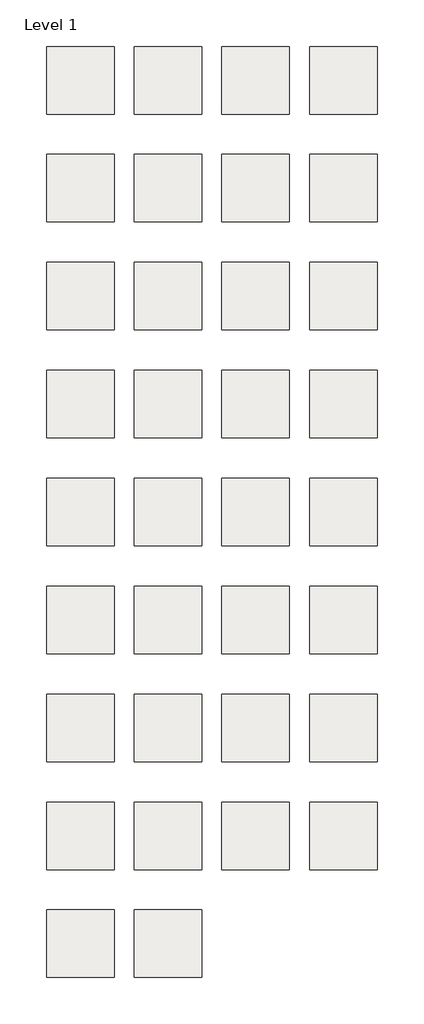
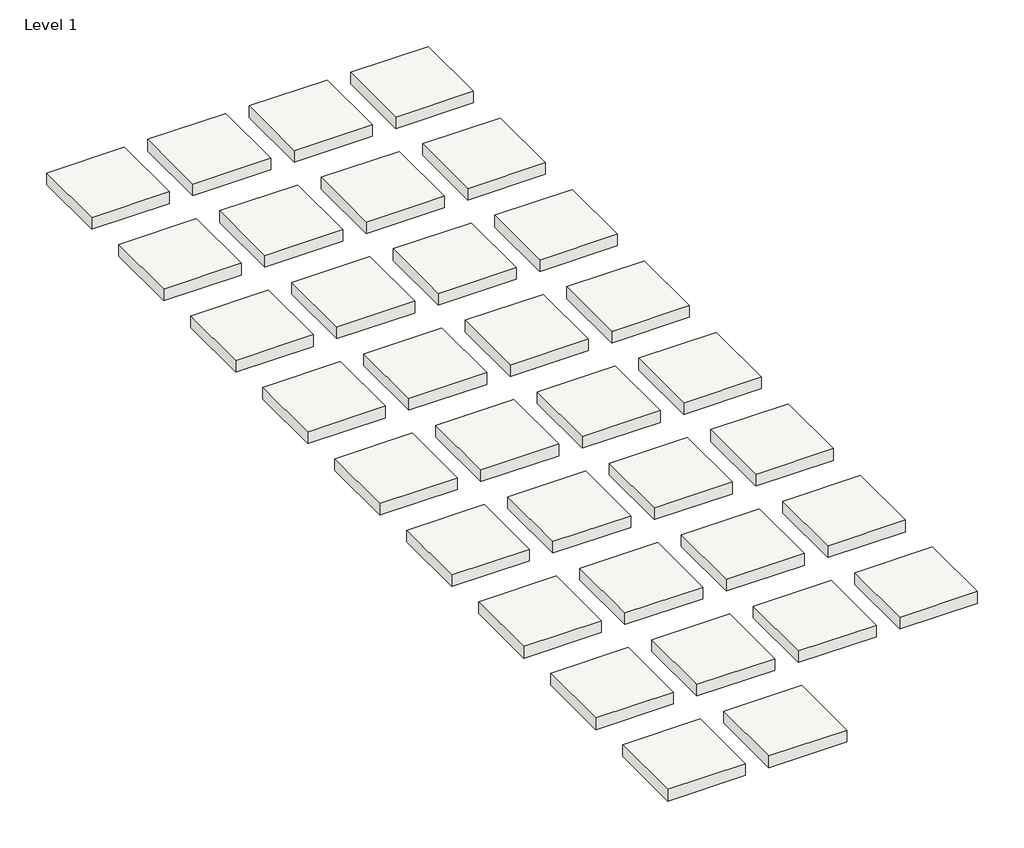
# One storey: 34 slabs.
"""IFC4 building model written with IfcOpenShell, lengths in millimetres."""

from ifc_helpers import new_model, si_unit, frame, origin, place, context, project, spatial, polyline, outline, extrude, element, save

model = new_model("IFC4")

# Units and contexts
model_context = context("Model", 3, world=origin())
ifc_project = project(units=[si_unit("LENGTHUNIT", "METRE", prefix="MILLI")], contexts=[model_context])

# Site, building, storey
site = spatial("IfcSite", under=ifc_project)
building = spatial("IfcBuilding", under=site)
storey = spatial("IfcBuildingStorey", under=building, Name="Level 1", Elevation=0.0)

# Slabs
placement = place(None, origin())
element("IfcSlab", 1, ObjectType="Armstrong_DecorArt Rejuvenations_Ambigu_38501 golden treasure", at=placement, inside=storey, context=model_context, shape_type="SweptSolid", body=[
    extrude(outline(polyline([(30743.6055838, 2884.7695431), (30743.6055838, 1360.7695431), (29219.6055838, 1360.7695431), (29219.6055838, 2884.7695431), (30743.6055838, 2884.7695431)])), frame((0.0, 0.0, -239.9109375), z_axis=(0.0, 0.0, 1.0), x_axis=(1.0, 0.0, 0.0)), (0.0, 0.0, 1.0), 239.9109375),
])
element("IfcSlab", 2, ObjectType="Armstrong_DecorArt Rejuvenations_Ambigu_38502 gingerly put", at=placement, inside=storey, context=model_context, shape_type="SweptSolid", body=[
    extrude(outline(polyline([(32724.8055838, 2884.7695431), (32724.8055838, 1360.7695431), (31200.8055838, 1360.7695431), (31200.8055838, 2884.7695431), (32724.8055838, 2884.7695431)])), frame((0.0, 0.0, -239.9109375), z_axis=(0.0, 0.0, 1.0), x_axis=(1.0, 0.0, 0.0)), (0.0, 0.0, 1.0), 239.9109375),
])
element("IfcSlab", 3, ObjectType="Armstrong_DecorArt Rejuvenations_Ambigu_38504 regal", at=placement, inside=storey, context=model_context, shape_type="SweptSolid", body=[
    extrude(outline(polyline([(36687.2055838, 2884.7695431), (36687.2055838, 1360.7695431), (35163.2055838, 1360.7695431), (35163.2055838, 2884.7695431), (36687.2055838, 2884.7695431)])), frame((0.0, 0.0, -239.9109375), z_axis=(0.0, 0.0, 1.0), x_axis=(1.0, 0.0, 0.0)), (0.0, 0.0, 1.0), 239.9109375),
])
element("IfcSlab", 4, ObjectType="Armstrong_DecorArt Rejuvenations_Ambigu_38505 empress sand", at=placement, inside=storey, context=model_context, shape_type="SweptSolid", body=[
    extrude(outline(polyline([(30743.6055838, 446.3695431), (30743.6055838, -1077.6304569), (29219.6055838, -1077.6304569), (29219.6055838, 446.3695431), (30743.6055838, 446.3695431)])), frame((0.0, 0.0, -239.9109375), z_axis=(0.0, 0.0, 1.0), x_axis=(1.0, 0.0, 0.0)), (0.0, 0.0, 1.0), 239.9109375),
])
element("IfcSlab", 5, ObjectType="Armstrong_DecorArt Rejuvenations_Ambigu_38506 royal", at=placement, inside=storey, context=model_context, shape_type="SweptSolid", body=[
    extrude(outline(polyline([(32724.8055838, 446.3695431), (32724.8055838, -1077.6304569), (31200.8055838, -1077.6304569), (31200.8055838, 446.3695431), (32724.8055838, 446.3695431)])), frame((0.0, 0.0, -239.9109375), z_axis=(0.0, 0.0, 1.0), x_axis=(1.0, 0.0, 0.0)), (0.0, 0.0, 1.0), 239.9109375),
])
element("IfcSlab", 6, ObjectType="Armstrong_DecorArt Rejuvenations_Ambigu_38508 koala", at=placement, inside=storey, context=model_context, shape_type="SweptSolid", body=[
    extrude(outline(polyline([(34706.0055838, 446.3695431), (34706.0055838, -1077.6304569), (33182.0055838, -1077.6304569), (33182.0055838, 446.3695431), (34706.0055838, 446.3695431)])), frame((0.0, 0.0, -239.9109375), z_axis=(0.0, 0.0, 1.0), x_axis=(1.0, 0.0, 0.0)), (0.0, 0.0, 1.0), 239.9109375),
])
element("IfcSlab", 7, ObjectType="Armstrong_DecorArt Rejuvenations_Ambigu_38509 melbourne", at=placement, inside=storey, context=model_context, shape_type="SweptSolid", body=[
    extrude(outline(polyline([(36687.2055838, 446.3695431), (36687.2055838, -1077.6304569), (35163.2055838, -1077.6304569), (35163.2055838, 446.3695431), (36687.2055838, 446.3695431)])), frame((0.0, 0.0, -239.9109375), z_axis=(0.0, 0.0, 1.0), x_axis=(1.0, 0.0, 0.0)), (0.0, 0.0, 1.0), 239.9109375),
])
element("IfcSlab", 8, ObjectType="Armstrong_DecorArt Rejuvenations_Ambigu_38510 g'day mate", at=placement, inside=storey, context=model_context, shape_type="SweptSolid", body=[
    extrude(outline(polyline([(30743.6055838, -1992.0304569), (30743.6055838, -3516.0304569), (29219.6055838, -3516.0304569), (29219.6055838, -1992.0304569), (30743.6055838, -1992.0304569)])), frame((0.0, 0.0, -239.9109375), z_axis=(0.0, 0.0, 1.0), x_axis=(1.0, 0.0, 0.0)), (0.0, 0.0, 1.0), 239.9109375),
])
element("IfcSlab", 9, ObjectType="Armstrong_DecorArt Rejuvenations_Ambigu_38511 kangaroo", at=placement, inside=storey, context=model_context, shape_type="SweptSolid", body=[
    extrude(outline(polyline([(32724.8055838, -1992.0304569), (32724.8055838, -3516.0304569), (31200.8055838, -3516.0304569), (31200.8055838, -1992.0304569), (32724.8055838, -1992.0304569)])), frame((0.0, 0.0, -239.9109375), z_axis=(0.0, 0.0, 1.0), x_axis=(1.0, 0.0, 0.0)), (0.0, 0.0, 1.0), 239.9109375),
])
element("IfcSlab", 10, ObjectType="Armstrong_DecorArt Rejuvenations_Ambigu_38512 sydney", at=placement, inside=storey, context=model_context, shape_type="SweptSolid", body=[
    extrude(outline(polyline([(34706.0055838, -1992.0304569), (34706.0055838, -3516.0304569), (33182.0055838, -3516.0304569), (33182.0055838, -1992.0304569), (34706.0055838, -1992.0304569)])), frame((0.0, 0.0, -239.9109375), z_axis=(0.0, 0.0, 1.0), x_axis=(1.0, 0.0, 0.0)), (0.0, 0.0, 1.0), 239.9109375),
])
element("IfcSlab", 11, ObjectType="Armstrong_DecorArt Rejuvenations_Ambigu_38513 down under", at=placement, inside=storey, context=model_context, shape_type="SweptSolid", body=[
    extrude(outline(polyline([(36687.2055838, -1992.0304569), (36687.2055838, -3516.0304569), (35163.2055838, -3516.0304569), (35163.2055838, -1992.0304569), (36687.2055838, -1992.0304569)])), frame((0.0, 0.0, -239.9109375), z_axis=(0.0, 0.0, 1.0), x_axis=(1.0, 0.0, 0.0)), (0.0, 0.0, 1.0), 239.9109375),
])
element("IfcSlab", 12, ObjectType="Armstrong_DecorArt Rejuvenations_Ambigu_38514 broadway", at=placement, inside=storey, context=model_context, shape_type="SweptSolid", body=[
    extrude(outline(polyline([(30743.6055838, -4430.4304569), (30743.6055838, -5954.4304569), (29219.6055838, -5954.4304569), (29219.6055838, -4430.4304569), (30743.6055838, -4430.4304569)])), frame((0.0, 0.0, -239.9109375), z_axis=(0.0, 0.0, 1.0), x_axis=(1.0, 0.0, 0.0)), (0.0, 0.0, 1.0), 239.9109375),
])
element("IfcSlab", 13, ObjectType="Armstrong_DecorArt Rejuvenations_Ambigu_38515 new yorker", at=placement, inside=storey, context=model_context, shape_type="SweptSolid", body=[
    extrude(outline(polyline([(32724.8055838, -4430.4304569), (32724.8055838, -5954.4304569), (31200.8055838, -5954.4304569), (31200.8055838, -4430.4304569), (32724.8055838, -4430.4304569)])), frame((0.0, 0.0, -239.9109375), z_axis=(0.0, 0.0, 1.0), x_axis=(1.0, 0.0, 0.0)), (0.0, 0.0, 1.0), 239.9109375),
])
element("IfcSlab", 14, ObjectType="Armstrong_DecorArt Rejuvenations_Ambigu_38516 tourist", at=placement, inside=storey, context=model_context, shape_type="SweptSolid", body=[
    extrude(outline(polyline([(34706.0055838, -4430.4304569), (34706.0055838, -5954.4304569), (33182.0055838, -5954.4304569), (33182.0055838, -4430.4304569), (34706.0055838, -4430.4304569)])), frame((0.0, 0.0, -239.9109375), z_axis=(0.0, 0.0, 1.0), x_axis=(1.0, 0.0, 0.0)), (0.0, 0.0, 1.0), 239.9109375),
])
element("IfcSlab", 15, ObjectType="Armstrong_DecorArt Rejuvenations_Ambigu_38503 princess gray", at=placement, inside=storey, context=model_context, shape_type="SweptSolid", body=[
    extrude(outline(polyline([(34706.0055838, 2884.7695431), (34706.0055838, 1360.7695431), (33182.0055838, 1360.7695431), (33182.0055838, 2884.7695431), (34706.0055838, 2884.7695431)])), frame((0.0, 0.0, -239.9109375), z_axis=(0.0, 0.0, 1.0), x_axis=(1.0, 0.0, 0.0)), (0.0, 0.0, 1.0), 239.9109375),
])
element("IfcSlab", 16, ObjectType="Armstrong_DecorArt Rejuvenations_Ambigu_38517 transit", at=placement, inside=storey, context=model_context, shape_type="SweptSolid", body=[
    extrude(outline(polyline([(36687.2055838, -4430.4304569), (36687.2055838, -5954.4304569), (35163.2055838, -5954.4304569), (35163.2055838, -4430.4304569), (36687.2055838, -4430.4304569)])), frame((0.0, 0.0, -239.9109375), z_axis=(0.0, 0.0, 1.0), x_axis=(1.0, 0.0, 0.0)), (0.0, 0.0, 1.0), 239.9109375),
])
element("IfcSlab", 17, ObjectType="Armstrong_DecorArt Rejuvenations_Ambigu_38518 garment district", at=placement, inside=storey, context=model_context, shape_type="SweptSolid", body=[
    extrude(outline(polyline([(30743.6055838, -6868.8304569), (30743.6055838, -8392.8304569), (29219.6055838, -8392.8304569), (29219.6055838, -6868.8304569), (30743.6055838, -6868.8304569)])), frame((0.0, 0.0, -239.9109375), z_axis=(0.0, 0.0, 1.0), x_axis=(1.0, 0.0, 0.0)), (0.0, 0.0, 1.0), 239.9109375),
])
element("IfcSlab", 18, ObjectType="Armstrong_DecorArt Rejuvenations_Ambigu_38519 never sleeps", at=placement, inside=storey, context=model_context, shape_type="SweptSolid", body=[
    extrude(outline(polyline([(32724.8055838, -6868.8304569), (32724.8055838, -8392.8304569), (31200.8055838, -8392.8304569), (31200.8055838, -6868.8304569), (32724.8055838, -6868.8304569)])), frame((0.0, 0.0, -239.9109375), z_axis=(0.0, 0.0, 1.0), x_axis=(1.0, 0.0, 0.0)), (0.0, 0.0, 1.0), 239.9109375),
])
element("IfcSlab", 19, ObjectType="Armstrong_DecorArt Rejuvenations_Ambigu_38521 traffic jam", at=placement, inside=storey, context=model_context, shape_type="SweptSolid", body=[
    extrude(outline(polyline([(36687.2055838, -6868.8304569), (36687.2055838, -8392.8304569), (35163.2055838, -8392.8304569), (35163.2055838, -6868.8304569), (36687.2055838, -6868.8304569)])), frame((0.0, 0.0, -239.9109375), z_axis=(0.0, 0.0, 1.0), x_axis=(1.0, 0.0, 0.0)), (0.0, 0.0, 1.0), 239.9109375),
])
element("IfcSlab", 20, ObjectType="Armstrong_DecorArt Rejuvenations_Ambigu_38522 hail a cab", at=placement, inside=storey, context=model_context, shape_type="SweptSolid", body=[
    extrude(outline(polyline([(30743.6055838, -9307.2304569), (30743.6055838, -10831.2304569), (29219.6055838, -10831.2304569), (29219.6055838, -9307.2304569), (30743.6055838, -9307.2304569)])), frame((0.0, 0.0, -239.9109375), z_axis=(0.0, 0.0, 1.0), x_axis=(1.0, 0.0, 0.0)), (0.0, 0.0, 1.0), 239.9109375),
])
element("IfcSlab", 21, ObjectType="Armstrong_DecorArt Rejuvenations_Ambigu_38523 times square", at=placement, inside=storey, context=model_context, shape_type="SweptSolid", body=[
    extrude(outline(polyline([(32724.8055838, -9307.2304569), (32724.8055838, -10831.2304569), (31200.8055838, -10831.2304569), (31200.8055838, -9307.2304569), (32724.8055838, -9307.2304569)])), frame((0.0, 0.0, -239.9109375), z_axis=(0.0, 0.0, 1.0), x_axis=(1.0, 0.0, 0.0)), (0.0, 0.0, 1.0), 239.9109375),
])
element("IfcSlab", 22, ObjectType="Armstrong_DecorArt Rejuvenations_Ambigu_38524 black out", at=placement, inside=storey, context=model_context, shape_type="SweptSolid", body=[
    extrude(outline(polyline([(34706.0055838, -9307.2304569), (34706.0055838, -10831.2304569), (33182.0055838, -10831.2304569), (33182.0055838, -9307.2304569), (34706.0055838, -9307.2304569)])), frame((0.0, 0.0, -239.9109375), z_axis=(0.0, 0.0, 1.0), x_axis=(1.0, 0.0, 0.0)), (0.0, 0.0, 1.0), 239.9109375),
])
element("IfcSlab", 23, ObjectType="Armstrong_DecorArt Rejuvenations_Ambigu_38525 herald square", at=placement, inside=storey, context=model_context, shape_type="SweptSolid", body=[
    extrude(outline(polyline([(36687.2055838, -9307.2304569), (36687.2055838, -10831.2304569), (35163.2055838, -10831.2304569), (35163.2055838, -9307.2304569), (36687.2055838, -9307.2304569)])), frame((0.0, 0.0, -239.9109375), z_axis=(0.0, 0.0, 1.0), x_axis=(1.0, 0.0, 0.0)), (0.0, 0.0, 1.0), 239.9109375),
])
element("IfcSlab", 24, ObjectType="Armstrong_DecorArt Rejuvenations_Ambigu_38526 upper east side", at=placement, inside=storey, context=model_context, shape_type="SweptSolid", body=[
    extrude(outline(polyline([(30743.6055838, -11745.6304569), (30743.6055838, -13269.6304569), (29219.6055838, -13269.6304569), (29219.6055838, -11745.6304569), (30743.6055838, -11745.6304569)])), frame((0.0, 0.0, -239.9109375), z_axis=(0.0, 0.0, 1.0), x_axis=(1.0, 0.0, 0.0)), (0.0, 0.0, 1.0), 239.9109375),
])
element("IfcSlab", 25, ObjectType="Armstrong_DecorArt Rejuvenations_Ambigu_38527 catch the train", at=placement, inside=storey, context=model_context, shape_type="SweptSolid", body=[
    extrude(outline(polyline([(32724.8055838, -11745.6304569), (32724.8055838, -13269.6304569), (31200.8055838, -13269.6304569), (31200.8055838, -11745.6304569), (32724.8055838, -11745.6304569)])), frame((0.0, 0.0, -239.9109375), z_axis=(0.0, 0.0, 1.0), x_axis=(1.0, 0.0, 0.0)), (0.0, 0.0, 1.0), 239.9109375),
])
element("IfcSlab", 26, ObjectType="Armstrong_DecorArt Rejuvenations_Ambigu_38528 taxi stand", at=placement, inside=storey, context=model_context, shape_type="SweptSolid", body=[
    extrude(outline(polyline([(34706.0055838, -11745.6304569), (34706.0055838, -13269.6304569), (33182.0055838, -13269.6304569), (33182.0055838, -11745.6304569), (34706.0055838, -11745.6304569)])), frame((0.0, 0.0, -239.9109375), z_axis=(0.0, 0.0, 1.0), x_axis=(1.0, 0.0, 0.0)), (0.0, 0.0, 1.0), 239.9109375),
])
element("IfcSlab", 27, ObjectType="Armstrong_DecorArt Rejuvenations_Ambigu_38529 manhattan", at=placement, inside=storey, context=model_context, shape_type="SweptSolid", body=[
    extrude(outline(polyline([(36687.2055838, -11745.6304569), (36687.2055838, -13269.6304569), (35163.2055838, -13269.6304569), (35163.2055838, -11745.6304569), (36687.2055838, -11745.6304569)])), frame((0.0, 0.0, -239.9109375), z_axis=(0.0, 0.0, 1.0), x_axis=(1.0, 0.0, 0.0)), (0.0, 0.0, 1.0), 239.9109375),
])
element("IfcSlab", 28, ObjectType="Armstrong_DecorArt Rejuvenations_Ambigu_38530 ny minute", at=placement, inside=storey, context=model_context, shape_type="SweptSolid", body=[
    extrude(outline(polyline([(30743.6055838, -14184.0304569), (30743.6055838, -15708.0304569), (29219.6055838, -15708.0304569), (29219.6055838, -14184.0304569), (30743.6055838, -14184.0304569)])), frame((0.0, 0.0, -239.9109375), z_axis=(0.0, 0.0, 1.0), x_axis=(1.0, 0.0, 0.0)), (0.0, 0.0, 1.0), 239.9109375),
])
element("IfcSlab", 29, ObjectType="Armstrong_DecorArt Rejuvenations_Ambigu_38531 bryant park", at=placement, inside=storey, context=model_context, shape_type="SweptSolid", body=[
    extrude(outline(polyline([(32724.8055838, -14184.0304569), (32724.8055838, -15708.0304569), (31200.8055838, -15708.0304569), (31200.8055838, -14184.0304569), (32724.8055838, -14184.0304569)])), frame((0.0, 0.0, -239.9109375), z_axis=(0.0, 0.0, 1.0), x_axis=(1.0, 0.0, 0.0)), (0.0, 0.0, 1.0), 239.9109375),
])
element("IfcSlab", 30, ObjectType="Armstrong_DecorArt Rejuvenations_Ambigu_38532 batiste", at=placement, inside=storey, context=model_context, shape_type="SweptSolid", body=[
    extrude(outline(polyline([(34706.0055838, -14184.0304569), (34706.0055838, -15708.0304569), (33182.0055838, -15708.0304569), (33182.0055838, -14184.0304569), (34706.0055838, -14184.0304569)])), frame((0.0, 0.0, -239.9109375), z_axis=(0.0, 0.0, 1.0), x_axis=(1.0, 0.0, 0.0)), (0.0, 0.0, 1.0), 239.9109375),
])
element("IfcSlab", 31, ObjectType="Armstrong_DecorArt Rejuvenations_Ambigu_38520 soho", at=placement, inside=storey, context=model_context, shape_type="SweptSolid", body=[
    extrude(outline(polyline([(34706.0055838, -6868.8304569), (34706.0055838, -8392.8304569), (33182.0055838, -8392.8304569), (33182.0055838, -6868.8304569), (34706.0055838, -6868.8304569)])), frame((0.0, 0.0, -239.9109375), z_axis=(0.0, 0.0, 1.0), x_axis=(1.0, 0.0, 0.0)), (0.0, 0.0, 1.0), 239.9109375),
])
element("IfcSlab", 32, ObjectType="Armstrong_DecorArt Rejuvenations_Ambigu_38533 merino", at=placement, inside=storey, context=model_context, shape_type="SweptSolid", body=[
    extrude(outline(polyline([(36687.2055838, -14184.0304569), (36687.2055838, -15708.0304569), (35163.2055838, -15708.0304569), (35163.2055838, -14184.0304569), (36687.2055838, -14184.0304569)])), frame((0.0, 0.0, -239.9109375), z_axis=(0.0, 0.0, 1.0), x_axis=(1.0, 0.0, 0.0)), (0.0, 0.0, 1.0), 239.9109375),
])
element("IfcSlab", 33, ObjectType="Armstrong_DecorArt Rejuvenations_Ambigu_38534 bisso", at=placement, inside=storey, context=model_context, shape_type="SweptSolid", body=[
    extrude(outline(polyline([(30743.6055838, -16622.4304569), (30743.6055838, -18146.4304569), (29219.6055838, -18146.4304569), (29219.6055838, -16622.4304569), (30743.6055838, -16622.4304569)])), frame((0.0, 0.0, -239.9109375), z_axis=(0.0, 0.0, 1.0), x_axis=(1.0, 0.0, 0.0)), (0.0, 0.0, 1.0), 239.9109375),
])
element("IfcSlab", 34, ObjectType="Armstrong_DecorArt Rejuvenations_Ambigu_38535 tricot", at=placement, inside=storey, context=model_context, shape_type="SweptSolid", body=[
    extrude(outline(polyline([(32724.8055838, -16622.4304569), (32724.8055838, -18146.4304569), (31200.8055838, -18146.4304569), (31200.8055838, -16622.4304569), (32724.8055838, -16622.4304569)])), frame((0.0, 0.0, -239.9109375), z_axis=(0.0, 0.0, 1.0), x_axis=(1.0, 0.0, 0.0)), (0.0, 0.0, 1.0), 239.9109375),
])

save(model, "model.ifc")
